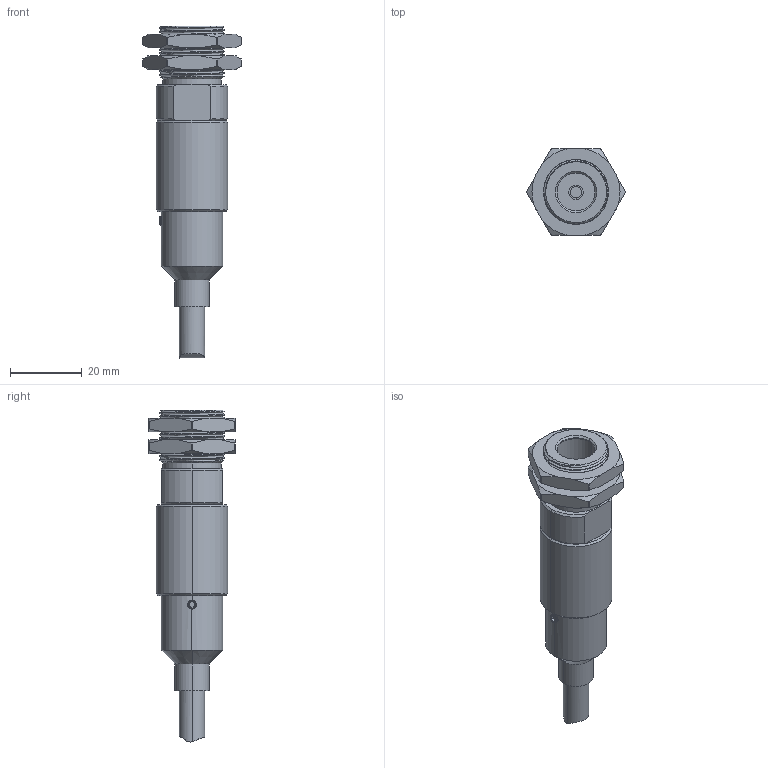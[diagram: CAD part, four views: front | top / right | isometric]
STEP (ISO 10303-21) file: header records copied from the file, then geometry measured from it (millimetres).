
FILE_DESCRIPTION (( 'STEP AP214' ), '1' );
FILE_NAME ('CTRA-Kopf-SF.STEP', '2010-12-06T14:49:24', ( '' ), ( '' ), 'SwSTEP 2.0', 'SolidWorks 2011', '' );
FILE_SCHEMA (( 'AUTOMOTIVE_DESIGN' ));
Length unit declared in the file: millimetre
Products named in the file (7): Sk-Mutter M18x1_SW 24; Faserende_Default; Fasertülle_Default; Tubus DE 1237; LWL-Flansch DE 1236_Default; CTRA-Kopf-SF; socket set screw dog point_din_DIN 915 - M2.5 x 4-S
Assembly tree (7 placements, depth 2):
  CTRA-Kopf-SF
    Faserende_Default
    Sk-Mutter M18x1_SW 24  x2
    LWL-Flansch DE 1236_Default
    Fasertülle_Default
    Tubus DE 1237
    socket set screw dog point_din_DIN 915 - M2.5 x 4-S
Bounding box: 27.5 x 24 x 92.3 mm (x, y, z)
Volume: 15214.5 mm3; surface area: 12871.8 mm2
Topology: 7 solids, 7 shells, 299 faces, 728 edges, 458 vertices
Faces by surface type: cylinder 128, cone 111, plane 56, bspline 2, torus 2
Entity records: 11573 total; most frequent: CARTESIAN_POINT 5012, DIRECTION 1357, ORIENTED_EDGE 1284, EDGE_CURVE 642, AXIS2_PLACEMENT_3D 555, VERTEX_POINT 402, EDGE_LOOP 292, CIRCLE 280
